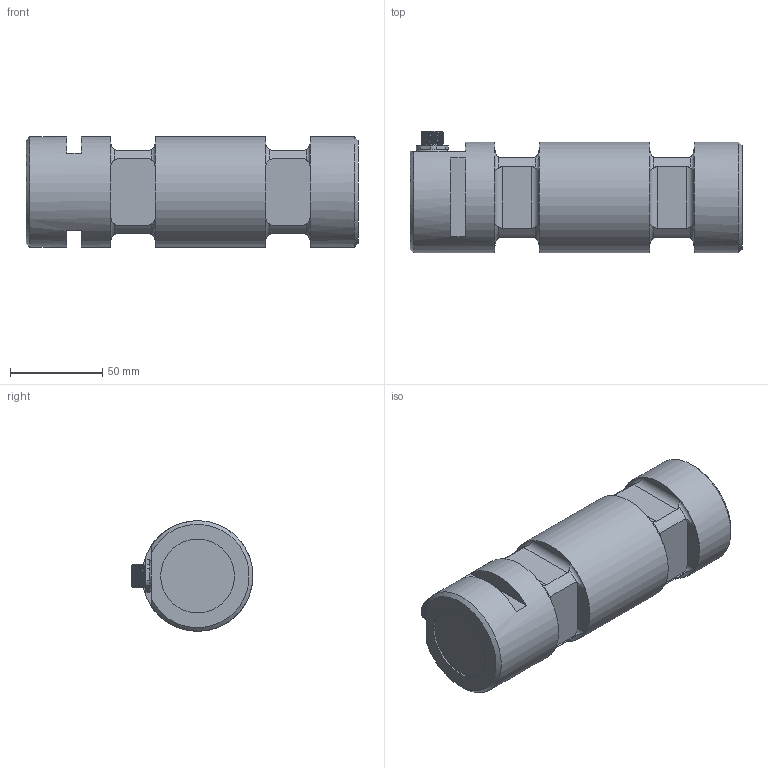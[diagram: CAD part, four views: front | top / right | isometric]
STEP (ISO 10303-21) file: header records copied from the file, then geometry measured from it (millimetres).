
FILE_DESCRIPTION(/* description */ ('Alibre Inc.'),/* implementation_level */ '2;1');
FILE_NAME(/* name */ 'export1',/* time_stamp */ '2014-07-15T08:14:52+02:00',/* author */ (''),/* organization */ (''),/* preprocessor_version */ 'ST-DEVELOPER v14',/* originating_system */ 'Alibre',/* authorisation */ '');
FILE_SCHEMA (('CONFIG_CONTROL_DESIGN'));
Length unit declared in the file: centimetre
Products named in the file (6): ID_1; ID_2; ID_3
Bounding box: 180 x 66 x 60 mm (x, y, z)
Volume: 450239.1 mm3; surface area: 47144 mm2
Topology: 8 solids, 8 shells, 200 faces, 459 edges, 281 vertices
Faces by surface type: plane 84, cylinder 70, bspline 23, torus 17, cone 6
Full cylindrical faces by diameter (mm): 0.5 x8, 8 x2, 10 x3, 11.5 x1, 13 x1, 14.376 x1, 40 x1, 60 x3
Entity records: 17508 total; most frequent: CARTESIAN_POINT 13314, ORIENTED_EDGE 848, DIRECTION 512, EDGE_CURVE 419, VERTEX_POINT 269, FACE_BOUND 241, EDGE_LOOP 240, AXIS2_PLACEMENT_3D 225
